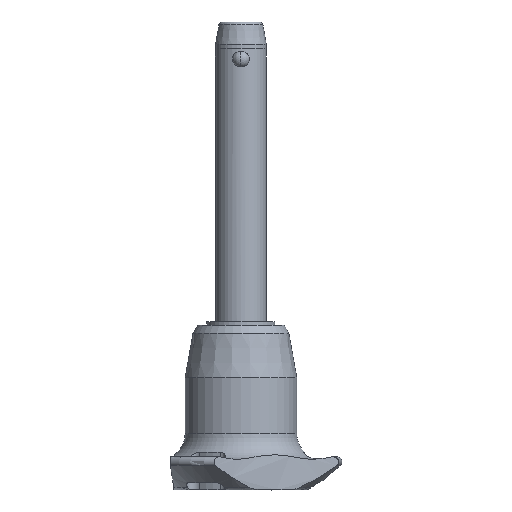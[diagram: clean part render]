
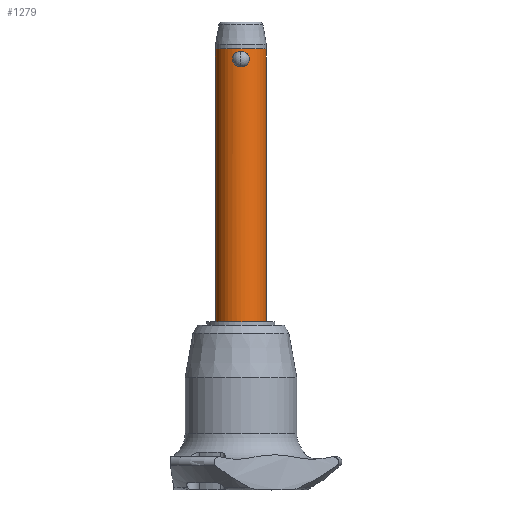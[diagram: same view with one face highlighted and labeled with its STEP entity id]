
A CAD part, front view. The second image highlights one B-rep face of the part: STEP entity #1279.
In plain terms, the highlighted cylindrical face has radius 6 mm (diameter 12 mm), a partial arc.
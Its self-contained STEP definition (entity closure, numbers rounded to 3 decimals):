
#42 = CARTESIAN_POINT ( 'NONE',  ( -0.25, -6., 0. ) ) ;
#90 = DIRECTION ( 'NONE',  ( 0., 0., 1. ) ) ;
#98 = CARTESIAN_POINT ( 'NONE',  ( 1.459, -5.821, 0.604 ) ) ;
#131 = CARTESIAN_POINT ( 'NONE',  ( 0., -6., 0. ) ) ;
#215 = AXIS2_PLACEMENT_3D ( 'NONE', #2134, #90, #1685 ) ;
#289 = CARTESIAN_POINT ( 'NONE',  ( -1.278, -5.863, 3.271 ) ) ;
#304 = CARTESIAN_POINT ( 'NONE',  ( -1.7, -5.755, 0.895 ) ) ;
#325 = CARTESIAN_POINT ( 'NONE',  ( 0., 0., -60. ) ) ;
#336 = CARTESIAN_POINT ( 'NONE',  ( -6., 0., -60. ) ) ;
#368 = EDGE_CURVE ( 'NONE', #988, #2381, #2334, .T. ) ;
#436 = CARTESIAN_POINT ( 'NONE',  ( 0.252, -5.996, 3.697 ) ) ;
#456 = EDGE_CURVE ( 'NONE', #1398, #988, #2262, .T. ) ;
#510 = CARTESIAN_POINT ( 'NONE',  ( -0.854, -5.94, 3.53 ) ) ;
#555 = ORIENTED_EDGE ( 'NONE', *, *, #456, .F. ) ;
#563 = CARTESIAN_POINT ( 'NONE',  ( 0.966, -5.923, 0.232 ) ) ;
#615 = CARTESIAN_POINT ( 'NONE',  ( 1.543, -5.799, 0.699 ) ) ;
#703 = CARTESIAN_POINT ( 'NONE',  ( -1.852, -5.707, 1.239 ) ) ;
#753 = CARTESIAN_POINT ( 'NONE',  ( -1.955, -5.673, 2.107 ) ) ;
#775 = CARTESIAN_POINT ( 'NONE',  ( 6., 0., -60. ) ) ;
#786 = CARTESIAN_POINT ( 'NONE',  ( 1.901, -5.692, 1.35 ) ) ;
#803 = DIRECTION ( 'NONE',  ( 1., 0., 0. ) ) ;
#842 = CARTESIAN_POINT ( 'NONE',  ( 0.853, -5.94, 0.177 ) ) ;
#881 = CARTESIAN_POINT ( 'NONE',  ( 1.955, -5.673, 1.979 ) ) ;
#897 = CARTESIAN_POINT ( 'NONE',  ( 1.851, -5.708, 2.47 ) ) ;
#910 = CARTESIAN_POINT ( 'NONE',  ( 1.89, -5.695, 2.349 ) ) ;
#921 = CARTESIAN_POINT ( 'NONE',  ( -1.46, -5.821, 3.103 ) ) ;
#926 = DIRECTION ( 'NONE',  ( 0., 0., 1. ) ) ;
#988 = VERTEX_POINT ( 'NONE', #336 ) ;
#1061 = CARTESIAN_POINT ( 'NONE',  ( 0., -6., 0. ) ) ;
#1070 = VECTOR ( 'NONE', #926, 1000. ) ;
#1088 = ORIENTED_EDGE ( 'NONE', *, *, #1776, .F. ) ;
#1093 = CARTESIAN_POINT ( 'NONE',  ( 0.127, -6., 3.708 ) ) ;
#1102 = CARTESIAN_POINT ( 'NONE',  ( -6., 0., 4.24 ) ) ;
#1103 = B_SPLINE_CURVE_WITH_KNOTS ( 'NONE', 3,
 ( #1061, #1964, #2875, #842, #563, #1748, #2653, #98, #615, #1915, #2819, #786, #1343, #881, #2433, #910, #897, #2918, #2677, #2721, #2891, #1522, #2256, #2478, #1761, #436, #1093, #1790 ),
 .UNSPECIFIED., .F., .F.,
 ( 4, 2, 2, 2, 2, 2, 2, 2, 2, 2, 2, 2, 2, 4 ),
 ( 0.006, 0.007, 0.007, 0.008, 0.008, 0.008, 0.009, 0.009, 0.01, 0.011, 0.011, 0.011, 0.012, 0.012 ),
 .UNSPECIFIED. ) ;
#1123 = AXIS2_PLACEMENT_3D ( 'NONE', #2174, #1487, #2630 ) ;
#1166 = AXIS2_PLACEMENT_3D ( 'NONE', #325, #2347, #803 ) ;
#1186 = CARTESIAN_POINT ( 'NONE',  ( -1.942, -5.677, 1.604 ) ) ;
#1199 = CARTESIAN_POINT ( 'NONE',  ( -1.278, -5.863, 0.437 ) ) ;
#1204 = EDGE_CURVE ( 'NONE', #1398, #2632, #2281, .T. ) ;
#1230 = FACE_OUTER_BOUND ( 'NONE', #2298, .T. ) ;
#1232 = CARTESIAN_POINT ( 'NONE',  ( -0.853, -5.94, 0.177 ) ) ;
#1279 = ADVANCED_FACE ( 'NONE', ( #1230, #2583 ), #1921, .T. ) ;
#1343 = CARTESIAN_POINT ( 'NONE',  ( 1.955, -5.673, 1.6 ) ) ;
#1385 = CARTESIAN_POINT ( 'NONE',  ( -1.9, -5.692, 2.359 ) ) ;
#1398 = VERTEX_POINT ( 'NONE', #775 ) ;
#1399 = CARTESIAN_POINT ( 'NONE',  ( -1.541, -5.799, 3.011 ) ) ;
#1487 = DIRECTION ( 'NONE',  ( 0., 0., 1. ) ) ;
#1516 = EDGE_LOOP ( 'NONE', ( #2118, #2330 ) ) ;
#1522 = CARTESIAN_POINT ( 'NONE',  ( 0.966, -5.923, 3.476 ) ) ;
#1623 = CARTESIAN_POINT ( 'NONE',  ( -0.127, -6., 3.708 ) ) ;
#1629 = B_SPLINE_CURVE_WITH_KNOTS ( 'NONE', 3,
 ( #2312, #1623, #2735, #1863, #2357, #510, #2329, #2785, #289, #921, #1399, #1847, #1829, #1385, #753, #2089, #1186, #1658, #703, #304, #2800, #1199, #2571, #2769, #1232, #2104, #42, #1878 ),
 .UNSPECIFIED., .F., .F.,
 ( 4, 2, 2, 2, 2, 2, 2, 2, 2, 2, 2, 2, 2, 4 ),
 ( 0., 0., 0.001, 0.001, 0.002, 0.002, 0.002, 0.003, 0.003, 0.004, 0.005, 0.005, 0.005, 0.006 ),
 .UNSPECIFIED. ) ;
#1637 = CARTESIAN_POINT ( 'NONE',  ( 6., 0., -60. ) ) ;
#1658 = CARTESIAN_POINT ( 'NONE',  ( -1.89, -5.695, 1.358 ) ) ;
#1685 = DIRECTION ( 'NONE',  ( 1., 0., 0. ) ) ;
#1748 = CARTESIAN_POINT ( 'NONE',  ( 1.178, -5.884, 0.362 ) ) ;
#1761 = CARTESIAN_POINT ( 'NONE',  ( 0.498, -5.981, 3.652 ) ) ;
#1776 = EDGE_CURVE ( 'NONE', #2381, #2632, #2368, .T. ) ;
#1790 = CARTESIAN_POINT ( 'NONE',  ( 0., -6., 3.708 ) ) ;
#1829 = CARTESIAN_POINT ( 'NONE',  ( -1.75, -5.74, 2.7 ) ) ;
#1840 = VERTEX_POINT ( 'NONE', #131 ) ;
#1847 = CARTESIAN_POINT ( 'NONE',  ( -1.687, -5.759, 2.809 ) ) ;
#1863 = CARTESIAN_POINT ( 'NONE',  ( -0.498, -5.981, 3.652 ) ) ;
#1878 = CARTESIAN_POINT ( 'NONE',  ( 0., -6., 0. ) ) ;
#1915 = CARTESIAN_POINT ( 'NONE',  ( 1.687, -5.758, 0.899 ) ) ;
#1921 = CYLINDRICAL_SURFACE ( 'NONE', #215, 6. ) ;
#1964 = CARTESIAN_POINT ( 'NONE',  ( 0.25, -6., 0. ) ) ;
#2089 = CARTESIAN_POINT ( 'NONE',  ( -1.955, -5.673, 1.731 ) ) ;
#2104 = CARTESIAN_POINT ( 'NONE',  ( -0.504, -5.983, 0.045 ) ) ;
#2118 = ORIENTED_EDGE ( 'NONE', *, *, #2218, .F. ) ;
#2134 = CARTESIAN_POINT ( 'NONE',  ( 0., 0., -60. ) ) ;
#2174 = CARTESIAN_POINT ( 'NONE',  ( 0., 0., 4.24 ) ) ;
#2218 = EDGE_CURVE ( 'NONE', #2584, #1840, #1629, .T. ) ;
#2227 = ORIENTED_EDGE ( 'NONE', *, *, #1204, .T. ) ;
#2256 = CARTESIAN_POINT ( 'NONE',  ( 0.855, -5.94, 3.53 ) ) ;
#2262 = CIRCLE ( 'NONE', #1166, 6. ) ;
#2281 = LINE ( 'NONE', #1637, #2833 ) ;
#2283 = ORIENTED_EDGE ( 'NONE', *, *, #368, .F. ) ;
#2298 = EDGE_LOOP ( 'NONE', ( #2283, #555, #2227, #1088 ) ) ;
#2302 = CARTESIAN_POINT ( 'NONE',  ( -6., 0., -60. ) ) ;
#2312 = CARTESIAN_POINT ( 'NONE',  ( 0., -6., 3.708 ) ) ;
#2329 = CARTESIAN_POINT ( 'NONE',  ( -0.966, -5.923, 3.476 ) ) ;
#2330 = ORIENTED_EDGE ( 'NONE', *, *, #2682, .F. ) ;
#2334 = LINE ( 'NONE', #2302, #1070 ) ;
#2347 = DIRECTION ( 'NONE',  ( 0., 0., -1. ) ) ;
#2357 = CARTESIAN_POINT ( 'NONE',  ( -0.62, -5.969, 3.619 ) ) ;
#2368 = CIRCLE ( 'NONE', #1123, 6. ) ;
#2381 = VERTEX_POINT ( 'NONE', #1102 ) ;
#2396 = CARTESIAN_POINT ( 'NONE',  ( 6., 0., 4.24 ) ) ;
#2433 = CARTESIAN_POINT ( 'NONE',  ( 1.942, -5.677, 2.103 ) ) ;
#2478 = CARTESIAN_POINT ( 'NONE',  ( 0.62, -5.969, 3.619 ) ) ;
#2527 = CARTESIAN_POINT ( 'NONE',  ( 0., -6., 3.708 ) ) ;
#2550 = DIRECTION ( 'NONE',  ( 0., 0., 1. ) ) ;
#2571 = CARTESIAN_POINT ( 'NONE',  ( -1.179, -5.884, 0.363 ) ) ;
#2583 = FACE_BOUND ( 'NONE', #1516, .T. ) ;
#2584 = VERTEX_POINT ( 'NONE', #2527 ) ;
#2630 = DIRECTION ( 'NONE',  ( 1., 0., 0. ) ) ;
#2632 = VERTEX_POINT ( 'NONE', #2396 ) ;
#2653 = CARTESIAN_POINT ( 'NONE',  ( 1.277, -5.863, 0.437 ) ) ;
#2677 = CARTESIAN_POINT ( 'NONE',  ( 1.551, -5.799, 3.018 ) ) ;
#2682 = EDGE_CURVE ( 'NONE', #1840, #2584, #1103, .T. ) ;
#2721 = CARTESIAN_POINT ( 'NONE',  ( 1.279, -5.863, 3.27 ) ) ;
#2735 = CARTESIAN_POINT ( 'NONE',  ( -0.252, -5.996, 3.697 ) ) ;
#2769 = CARTESIAN_POINT ( 'NONE',  ( -0.967, -5.923, 0.233 ) ) ;
#2785 = CARTESIAN_POINT ( 'NONE',  ( -1.177, -5.884, 3.347 ) ) ;
#2800 = CARTESIAN_POINT ( 'NONE',  ( -1.551, -5.799, 0.69 ) ) ;
#2819 = CARTESIAN_POINT ( 'NONE',  ( 1.749, -5.74, 1.007 ) ) ;
#2833 = VECTOR ( 'NONE', #2550, 1000. ) ;
#2875 = CARTESIAN_POINT ( 'NONE',  ( 0.503, -5.983, 0.045 ) ) ;
#2891 = CARTESIAN_POINT ( 'NONE',  ( 1.178, -5.884, 3.346 ) ) ;
#2918 = CARTESIAN_POINT ( 'NONE',  ( 1.7, -5.755, 2.812 ) ) ;
